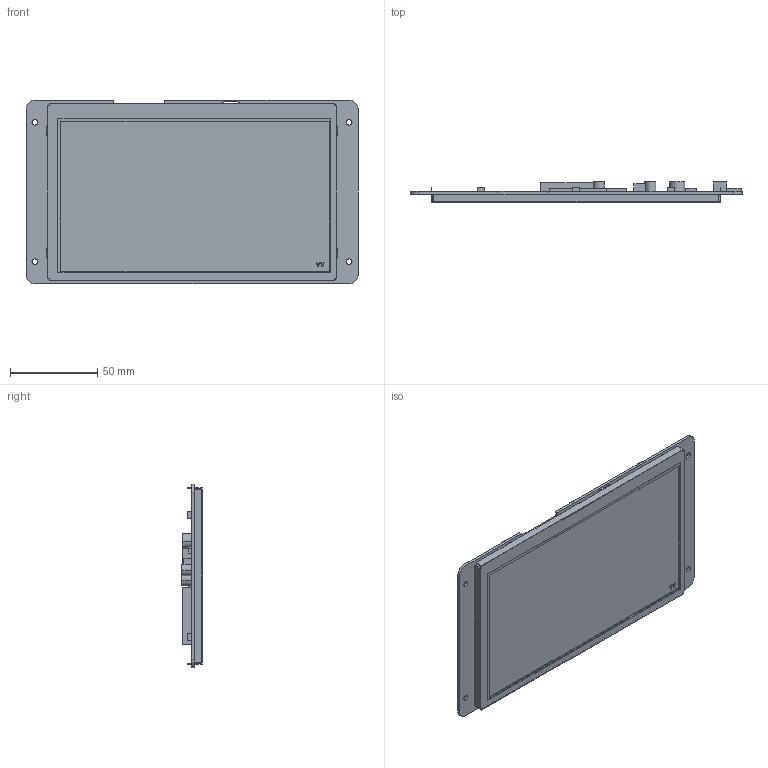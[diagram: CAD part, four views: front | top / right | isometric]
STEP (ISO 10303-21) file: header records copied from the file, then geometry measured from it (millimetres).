
FILE_DESCRIPTION((''),'2;1');
FILE_NAME('DMG80480C070-04WTC_ASM','2021-12-02T',('Administrator'),(''),'PRO/ENGINEER BY PARAMETRIC TECHNOLOGY CORPORATION, 2014320','PRO/ENGINEER BY PARAMETRIC TECHNOLOGY CORPORATION, 2014320','');
FILE_SCHEMA(('CONFIG_CONTROL_DESIGN','SHAPE_APPEARANCE_LAYERS_GROUPS'));
Length unit declared in the file: millimetre
Products named in the file (4): TK070019; LN80480C070IA2004; PCB; DMG80480C070-04WTC_ASM
Assembly tree (3 placements, depth 2):
  DMG80480C070-04WTC_ASM
    TK070019
    LN80480C070IA2004
    PCB
Bounding box: 190.5 x 11.8 x 105.41 mm (x, y, z)
Volume: 93246.8 mm3; surface area: 88841.3 mm2
Topology: 3 solids, 3 shells, 287 faces, 798 edges, 532 vertices
Faces by surface type: plane 227, cylinder 60
Entity records: 10411 total; most frequent: CARTESIAN_POINT 1624, ORIENTED_EDGE 1596, DIRECTION 1506, EDGE_CURVE 798, VECTOR 678, LINE 678, VERTEX_POINT 532, AXIS2_PLACEMENT_3D 414
